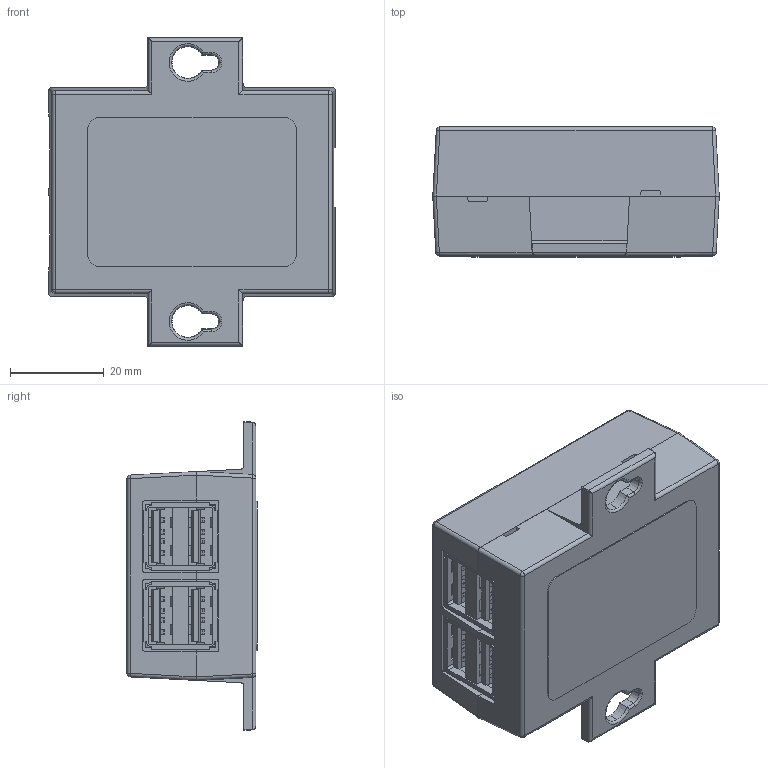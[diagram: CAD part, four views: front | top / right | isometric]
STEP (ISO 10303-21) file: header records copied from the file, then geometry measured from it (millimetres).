
FILE_DESCRIPTION (( 'STEP AP214' ), '1' );
FILE_NAME ('UH104.STEP', '2018-09-21T20:56:22', ( '' ), ( '' ), 'SwSTEP 2.0', 'SolidWorks 2016', '' );
FILE_SCHEMA (( 'AUTOMOTIVE_DESIGN' ));
Length unit declared in the file: inch
Products named in the file (9): 250-11362-00 Bottom; 250-11015-00 Top; 8896 Dual USB A; 4921 USB B; 230-11001-00; 8903 PCB; 230-11001-00 Top; 230-11001-00 Bottom; UH104
Assembly tree (9 placements, depth 3):
  UH104
    230-11001-00
      230-11001-00 Bottom
      230-11001-00 Top
      8903 PCB
    4921 USB B
    8896 Dual USB A  x2
    250-11015-00 Top
    250-11362-00 Bottom
Bounding box: 60.96 x 27.69 x 65.7 mm (x, y, z)
Volume: 34642.7 mm3; surface area: 41122.9 mm2
Topology: 8 solids, 8 shells, 1889 faces, 5246 edges, 3384 vertices
Faces by surface type: plane 1244, cylinder 439, torus 66, bspline 66, cone 50, sphere 24
Entity records: 52484 total; most frequent: CARTESIAN_POINT 10427, ORIENTED_EDGE 8078, DIRECTION 7265, EDGE_CURVE 4039, VECTOR 2901, LINE 2901, VERTEX_POINT 2608, AXIS2_PLACEMENT_3D 2182
